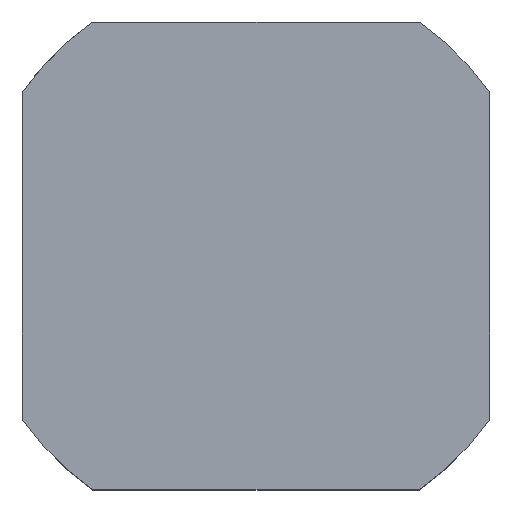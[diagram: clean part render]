
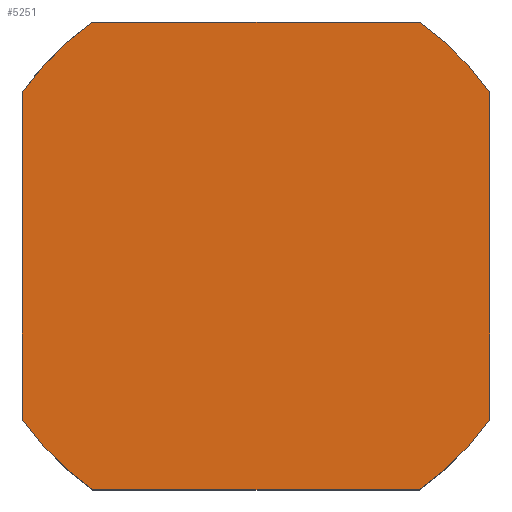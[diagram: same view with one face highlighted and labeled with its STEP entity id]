
A CAD part, top view. The second image highlights one B-rep face of the part: STEP entity #5251.
In plain terms, the highlighted planar face has unit normal (0, 0, 1).
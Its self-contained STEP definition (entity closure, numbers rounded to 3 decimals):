
#89 = CIRCLE ( 'NONE', #397, 133.076 ) ;
#95 = CARTESIAN_POINT ( 'NONE',  ( 109.1, 76.2, 83. ) ) ;
#115 = VERTEX_POINT ( 'NONE', #1103 ) ;
#397 = AXIS2_PLACEMENT_3D ( 'NONE', #5794, #6187, #3343 ) ;
#404 = CIRCLE ( 'NONE', #4334, 133.076 ) ;
#426 = CARTESIAN_POINT ( 'NONE',  ( 0., 0., 83. ) ) ;
#442 = CARTESIAN_POINT ( 'NONE',  ( 0., -109.1, 83. ) ) ;
#808 = CARTESIAN_POINT ( 'NONE',  ( 76.2, 109.1, 83. ) ) ;
#1103 = CARTESIAN_POINT ( 'NONE',  ( -109.1, 76.2, 83. ) ) ;
#1367 = ORIENTED_EDGE ( 'NONE', *, *, #3856, .T. ) ;
#1400 = PLANE ( 'NONE',  #5569 ) ;
#1428 = CARTESIAN_POINT ( 'NONE',  ( 76.2, -109.1, 83. ) ) ;
#1451 = DIRECTION ( 'NONE',  ( -1., 0., 0. ) ) ;
#1473 = CIRCLE ( 'NONE', #5197, 133.076 ) ;
#1609 = LINE ( 'NONE', #5070, #2205 ) ;
#1787 = EDGE_CURVE ( 'NONE', #5761, #4511, #4839, .T. ) ;
#1791 = EDGE_CURVE ( 'NONE', #4533, #115, #89, .T. ) ;
#1830 = EDGE_CURVE ( 'NONE', #4441, #4511, #6349, .T. ) ;
#1850 = VECTOR ( 'NONE', #4387, 1000. ) ;
#1883 = DIRECTION ( 'NONE',  ( 0., 0., 1. ) ) ;
#2067 = VECTOR ( 'NONE', #2462, 1000. ) ;
#2205 = VECTOR ( 'NONE', #1451, 1000. ) ;
#2462 = DIRECTION ( 'NONE',  ( 0., 1., 0. ) ) ;
#2890 = ORIENTED_EDGE ( 'NONE', *, *, #4698, .T. ) ;
#3049 = CARTESIAN_POINT ( 'NONE',  ( 109.1, 0., 83. ) ) ;
#3213 = EDGE_LOOP ( 'NONE', ( #4374, #5393, #3991, #3435, #5412, #3857, #1367, #2890 ) ) ;
#3343 = DIRECTION ( 'NONE',  ( 1., 0., 0. ) ) ;
#3347 = EDGE_CURVE ( 'NONE', #5761, #115, #5964, .T. ) ;
#3435 = ORIENTED_EDGE ( 'NONE', *, *, #1787, .T. ) ;
#3521 = CARTESIAN_POINT ( 'NONE',  ( -109.1, 0., 83. ) ) ;
#3609 = DIRECTION ( 'NONE',  ( 0., 0., 1. ) ) ;
#3646 = DIRECTION ( 'NONE',  ( 1., 0., 0. ) ) ;
#3773 = DIRECTION ( 'NONE',  ( 1., 0., 0. ) ) ;
#3779 = CARTESIAN_POINT ( 'NONE',  ( 0., 0., 83. ) ) ;
#3856 = EDGE_CURVE ( 'NONE', #5675, #5830, #3983, .T. ) ;
#3857 = ORIENTED_EDGE ( 'NONE', *, *, #5449, .T. ) ;
#3858 = CARTESIAN_POINT ( 'NONE',  ( -76.2, 109.1, 83. ) ) ;
#3983 = LINE ( 'NONE', #3049, #2067 ) ;
#3991 = ORIENTED_EDGE ( 'NONE', *, *, #3347, .F. ) ;
#4229 = DIRECTION ( 'NONE',  ( 0., 0., 1. ) ) ;
#4329 = AXIS2_PLACEMENT_3D ( 'NONE', #4713, #4229, #3773 ) ;
#4334 = AXIS2_PLACEMENT_3D ( 'NONE', #3779, #4354, #5266 ) ;
#4336 = CARTESIAN_POINT ( 'NONE',  ( 109.1, -76.2, 83. ) ) ;
#4354 = DIRECTION ( 'NONE',  ( 0., 0., 1. ) ) ;
#4374 = ORIENTED_EDGE ( 'NONE', *, *, #6007, .T. ) ;
#4387 = DIRECTION ( 'NONE',  ( -1., 0., 0. ) ) ;
#4441 = VERTEX_POINT ( 'NONE', #1428 ) ;
#4511 = VERTEX_POINT ( 'NONE', #6298 ) ;
#4533 = VERTEX_POINT ( 'NONE', #3858 ) ;
#4698 = EDGE_CURVE ( 'NONE', #5830, #5709, #404, .T. ) ;
#4713 = CARTESIAN_POINT ( 'NONE',  ( 0., 0., 83. ) ) ;
#4839 = CIRCLE ( 'NONE', #4329, 133.076 ) ;
#5070 = CARTESIAN_POINT ( 'NONE',  ( 0., 109.1, 83. ) ) ;
#5197 = AXIS2_PLACEMENT_3D ( 'NONE', #6370, #3609, #3646 ) ;
#5251 = ADVANCED_FACE ( 'NONE', ( #5825 ), #1400, .T. ) ;
#5266 = DIRECTION ( 'NONE',  ( 1., 0., 0. ) ) ;
#5284 = DIRECTION ( 'NONE',  ( 1., 0., 0. ) ) ;
#5393 = ORIENTED_EDGE ( 'NONE', *, *, #1791, .T. ) ;
#5412 = ORIENTED_EDGE ( 'NONE', *, *, #1830, .F. ) ;
#5449 = EDGE_CURVE ( 'NONE', #4441, #5675, #1473, .T. ) ;
#5474 = CARTESIAN_POINT ( 'NONE',  ( -109.1, -76.2, 83. ) ) ;
#5490 = DIRECTION ( 'NONE',  ( 0., 1., 0. ) ) ;
#5569 = AXIS2_PLACEMENT_3D ( 'NONE', #426, #1883, #5284 ) ;
#5675 = VERTEX_POINT ( 'NONE', #4336 ) ;
#5709 = VERTEX_POINT ( 'NONE', #808 ) ;
#5761 = VERTEX_POINT ( 'NONE', #5474 ) ;
#5794 = CARTESIAN_POINT ( 'NONE',  ( 0., 0., 83. ) ) ;
#5825 = FACE_OUTER_BOUND ( 'NONE', #3213, .T. ) ;
#5830 = VERTEX_POINT ( 'NONE', #95 ) ;
#5964 = LINE ( 'NONE', #3521, #6087 ) ;
#6007 = EDGE_CURVE ( 'NONE', #5709, #4533, #1609, .T. ) ;
#6087 = VECTOR ( 'NONE', #5490, 1000. ) ;
#6187 = DIRECTION ( 'NONE',  ( 0., 0., 1. ) ) ;
#6298 = CARTESIAN_POINT ( 'NONE',  ( -76.2, -109.1, 83. ) ) ;
#6349 = LINE ( 'NONE', #442, #1850 ) ;
#6370 = CARTESIAN_POINT ( 'NONE',  ( 0., 0., 83. ) ) ;
